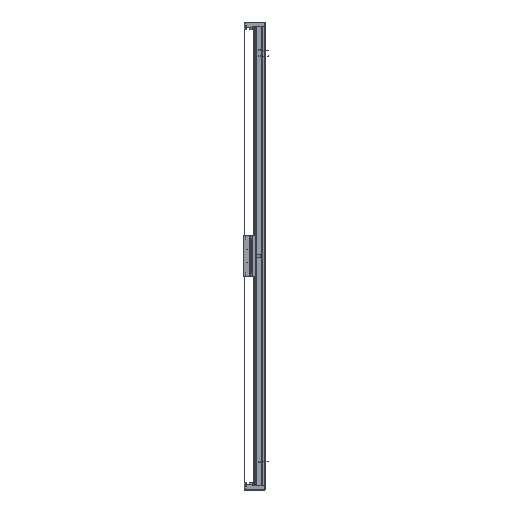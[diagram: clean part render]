
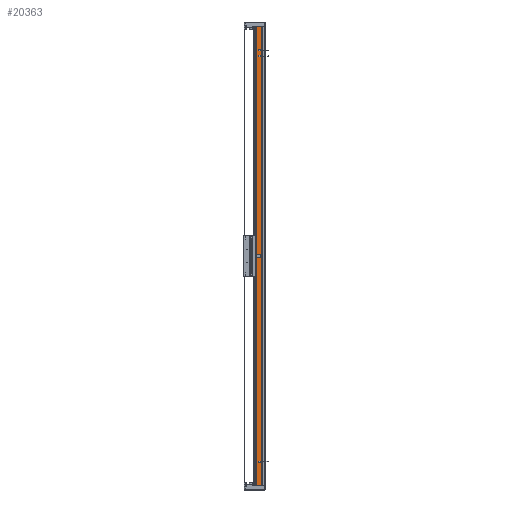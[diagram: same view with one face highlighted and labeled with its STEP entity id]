
A CAD part, left-side view. The second image highlights one B-rep face of the part: STEP entity #20363.
In plain terms, the highlighted planar face has unit normal (-1, 0, 0).
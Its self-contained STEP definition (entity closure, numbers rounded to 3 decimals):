
#3061 = EDGE_CURVE ( 'NONE', #117083, #43916, #80271, .T. ) ;
#8255 = ORIENTED_EDGE ( 'NONE', *, *, #3061, .F. ) ;
#9225 = CARTESIAN_POINT ( 'NONE',  ( -82.5, 14.45, 1050. ) ) ;
#10826 = VECTOR ( 'NONE', #110435, 1000. ) ;
#20312 = VERTEX_POINT ( 'NONE', #23704 ) ;
#20363 = ADVANCED_FACE ( 'NONE', ( #80682 ), #108532, .F. ) ;
#21209 = VECTOR ( 'NONE', #116601, 1000. ) ;
#22654 = CARTESIAN_POINT ( 'NONE',  ( -82.5, 14.45, 1050. ) ) ;
#23704 = CARTESIAN_POINT ( 'NONE',  ( -82.5, 36.95, -1050. ) ) ;
#34028 = DIRECTION ( 'NONE',  ( 0., 1., 0. ) ) ;
#35107 = AXIS2_PLACEMENT_3D ( 'NONE', #42525, #79499, #34028 ) ;
#42525 = CARTESIAN_POINT ( 'NONE',  ( -82.5, 36.95, 1050. ) ) ;
#43900 = VERTEX_POINT ( 'NONE', #76641 ) ;
#43916 = VERTEX_POINT ( 'NONE', #22654 ) ;
#58820 = ORIENTED_EDGE ( 'NONE', *, *, #77630, .T. ) ;
#60725 = VECTOR ( 'NONE', #69709, 1000. ) ;
#62994 = EDGE_CURVE ( 'NONE', #43916, #43900, #73506, .T. ) ;
#69709 = DIRECTION ( 'NONE',  ( 0., -1., 0. ) ) ;
#73506 = LINE ( 'NONE', #9225, #10826 ) ;
#76641 = CARTESIAN_POINT ( 'NONE',  ( -82.5, 14.45, -1050. ) ) ;
#77630 = EDGE_CURVE ( 'NONE', #20312, #43900, #109022, .T. ) ;
#78407 = VECTOR ( 'NONE', #104467, 1000. ) ;
#79499 = DIRECTION ( 'NONE',  ( 1., 0., 0. ) ) ;
#79982 = CARTESIAN_POINT ( 'NONE',  ( -82.5, 36.95, -1050. ) ) ;
#80271 = LINE ( 'NONE', #117205, #21209 ) ;
#80682 = FACE_OUTER_BOUND ( 'NONE', #107924, .T. ) ;
#94801 = CARTESIAN_POINT ( 'NONE',  ( -82.5, 36.95, 1050. ) ) ;
#98558 = ORIENTED_EDGE ( 'NONE', *, *, #100310, .T. ) ;
#100310 = EDGE_CURVE ( 'NONE', #117083, #20312, #105046, .T. ) ;
#104467 = DIRECTION ( 'NONE',  ( 0., 0., -1. ) ) ;
#105046 = LINE ( 'NONE', #94801, #78407 ) ;
#107924 = EDGE_LOOP ( 'NONE', ( #58820, #110852, #8255, #98558 ) ) ;
#108532 = PLANE ( 'NONE',  #35107 ) ;
#109022 = LINE ( 'NONE', #79982, #60725 ) ;
#110435 = DIRECTION ( 'NONE',  ( 0., 0., -1. ) ) ;
#110852 = ORIENTED_EDGE ( 'NONE', *, *, #62994, .F. ) ;
#116601 = DIRECTION ( 'NONE',  ( 0., -1., 0. ) ) ;
#117083 = VERTEX_POINT ( 'NONE', #117939 ) ;
#117205 = CARTESIAN_POINT ( 'NONE',  ( -82.5, 36.95, 1050. ) ) ;
#117939 = CARTESIAN_POINT ( 'NONE',  ( -82.5, 36.95, 1050. ) ) ;
